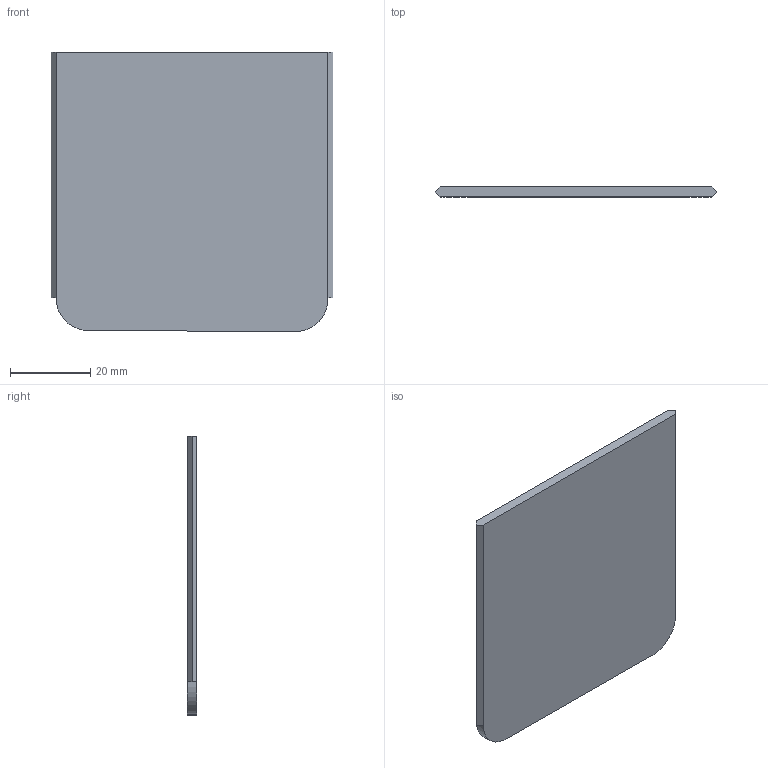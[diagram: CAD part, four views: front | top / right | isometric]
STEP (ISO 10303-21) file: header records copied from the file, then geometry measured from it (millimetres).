
FILE_DESCRIPTION( ( '' ), ' ' );
FILE_NAME( '/vol/tmp/translate-8239042179452206698/578e793de4b04f8871ce893d.step', '2016-07-19T19:02:21', ( '' ), ( '' ), ' ', ' ', ' ' );
FILE_SCHEMA( ( 'AUTOMOTIVE_DESIGN { 1 0 10303 214 1 1 1 1 }' ) );
Length unit declared in the file: metre
Products named in the file (1): Part 1
Bounding box: 70.1 x 2.48 x 69.42 mm (x, y, z)
Volume: 10670.7 mm3; surface area: 10833 mm2
Topology: 1 solids, 1 shells, 105 faces, 284 edges, 188 vertices
Faces by surface type: cylinder 62, extrusion 26, plane 17
Entity records: 8500 total; most frequent: CARTESIAN_POINT 4988, ORIENTED_EDGE 562, DIRECTION 539, EDGE_CURVE 281, AXIS2_PLACEMENT_3D 204, VERTEX_POINT 188, VECTOR 131, CIRCLE 124
